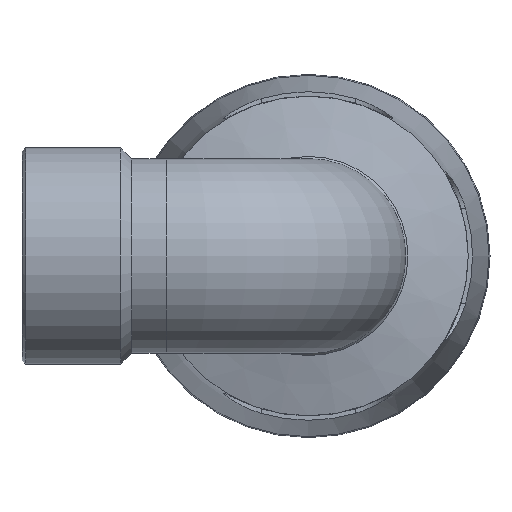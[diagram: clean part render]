
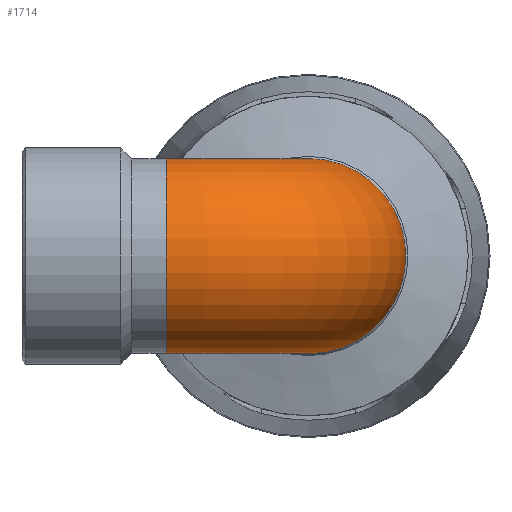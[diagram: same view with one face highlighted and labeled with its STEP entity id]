
A CAD part, left-side view. The second image highlights one B-rep face of the part: STEP entity #1714.
In plain terms, the highlighted toroidal (fillet/blend) face has major radius 33.204 mm and minor radius 22.787 mm.
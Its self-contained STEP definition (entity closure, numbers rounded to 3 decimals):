
#356=FACE_BOUND('',#509,.T.);
#384=FACE_OUTER_BOUND('',#508,.T.);
#508=EDGE_LOOP('',(#1160));
#509=EDGE_LOOP('',(#1161));
#615=CIRCLE('',#1814,22.787);
#621=CIRCLE('',#1824,22.787);
#710=VERTEX_POINT('',#2509);
#716=VERTEX_POINT('',#2525);
#869=EDGE_CURVE('',#710,#710,#615,.T.);
#875=EDGE_CURVE('',#716,#716,#621,.T.);
#1160=ORIENTED_EDGE('',*,*,#869,.F.);
#1161=ORIENTED_EDGE('',*,*,#875,.T.);
#1586=TOROIDAL_SURFACE('',#1868,33.204,22.787);
#1714=ADVANCED_FACE('',(#384,#356),#1586,.T.);
#1814=AXIS2_PLACEMENT_3D('',#2510,#2025,#2026);
#1824=AXIS2_PLACEMENT_3D('',#2526,#2045,#2046);
#1868=AXIS2_PLACEMENT_3D('',#2604,#2133,#2134);
#2025=DIRECTION('center_axis',(1.,0.,0.));
#2026=DIRECTION('ref_axis',(0.,-1.,0.));
#2045=DIRECTION('center_axis',(0.,-1.,0.));
#2046=DIRECTION('ref_axis',(-1.,0.,0.));
#2133=DIRECTION('center_axis',(0.,0.,1.));
#2134=DIRECTION('ref_axis',(1.,0.,0.));
#2509=CARTESIAN_POINT('',(33.204,22.787,0.));
#2510=CARTESIAN_POINT('Origin',(33.204,0.,0.));
#2525=CARTESIAN_POINT('',(22.787,33.204,0.));
#2526=CARTESIAN_POINT('Origin',(0.,33.204,0.));
#2604=CARTESIAN_POINT('Origin',(33.204,33.204,0.));
